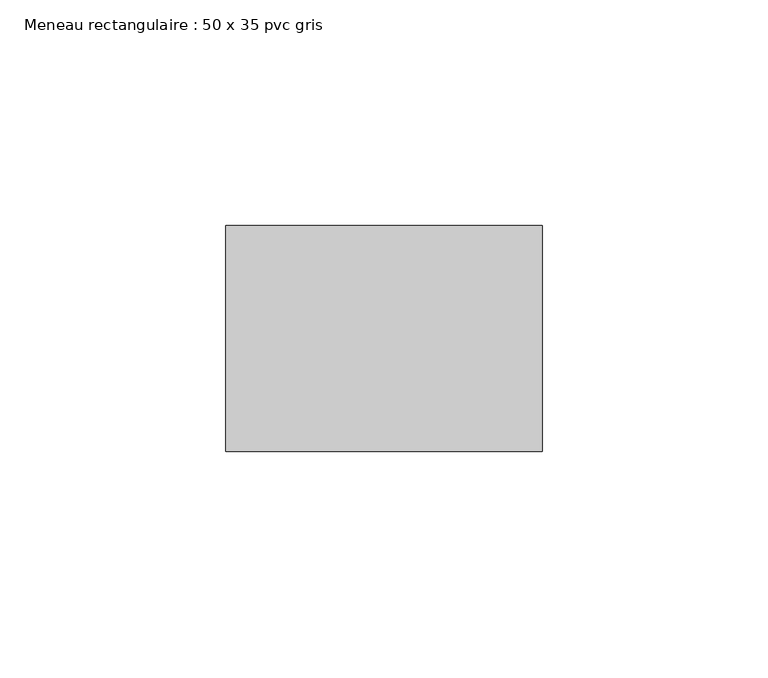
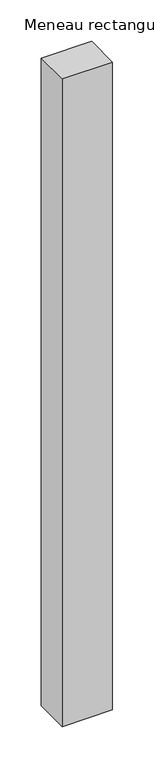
"""IFC4 building model written with IfcOpenShell, lengths in millimetres: member geometry, Meneau rectangulaire : 50 x 35 pvc gris."""

from ifc_helpers import new_model, si_unit, frame, origin, place, context, project, spatial, polyline, outline, extrude, source, transform, mapped, element, save


def meneau_rectangulaire_50_x_35_pvc_gris_6d7ecef4(model_context):
    return source(origin(), model_context, "Body", "SweptSolid", [
        extrude(outline(polyline([(0.0, 0.0), (0.0, -50.0), (-70.0, -50.0), (-70.0, 0.0), (0.0, 0.0)])), frame((0.0, 0.0, -954.0), z_axis=(0.0, 0.0, 1.0), x_axis=(1.0, 0.0, 0.0)), (0.0, 0.0, 1.0), 954.0),
    ])


if __name__ == "__main__":
    model = new_model("IFC4")
    model_context = context("Model", 3, world=origin())
    ifc_project = project(units=[si_unit("LENGTHUNIT", "METRE", prefix="MILLI")], contexts=[model_context])
    site = spatial("IfcSite", under=ifc_project)
    building = spatial("IfcBuilding", under=site)
    placement = place(None, origin())
    meneau_rectangulaire_50_x_35_pvc_gris_shape = meneau_rectangulaire_50_x_35_pvc_gris_6d7ecef4(model_context)
    element("IfcMember", 1, ObjectType="Meneau rectangulaire : 50 x 35 pvc gris", at=placement, inside=building, context=model_context, shape_type="MappedRepresentation", body=[
        mapped(meneau_rectangulaire_50_x_35_pvc_gris_shape, transform((0.0, 0.0, 0.0), x_axis=(1.0, 0.0, 0.0), y_axis=(0.0, 1.0, 0.0), z_axis=(0.0, 0.0, 1.0))),
    ])
    save(model, "model.ifc")
